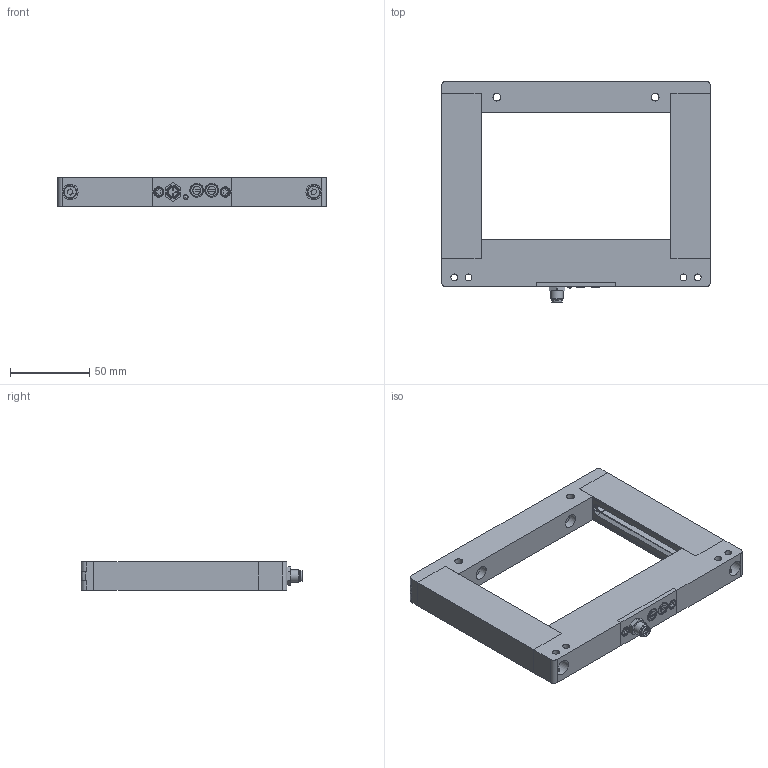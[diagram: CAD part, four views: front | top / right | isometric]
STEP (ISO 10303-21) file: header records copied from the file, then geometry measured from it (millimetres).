
FILE_DESCRIPTION(/* description */ (''),/* implementation_level */ '2;1');
FILE_NAME(/* name */ 'C:\#Vault-WorkDir\Konstruktions-Dokumente\Projekte\Rahmenlichtschranke\153-00295 FG 120 I-PSM3.stp',/* time_stamp */ '2014-12-18T09:55:19+01:00',/* author */ ('sandra.stahl'),/* organization */ (''),/* preprocessor_version */ 'ST-DEVELOPER v15.2',/* originating_system */ 'Autodesk Inventor 2014',/* authorisation */ '');
FILE_SCHEMA (('AUTOMOTIVE_DESIGN { 1 0 10303 214 3 1 1 }'));
Length unit declared in the file: millimetre
Products named in the file (1): GH-ENG-0008792
Bounding box: 170 x 140 x 18 mm (x, y, z)
Volume: 177833.5 mm3; surface area: 74562.5 mm2
Topology: 18 solids, 18 shells, 471 faces, 1154 edges, 754 vertices
Faces by surface type: plane 271, cylinder 151, cone 34, torus 9, sphere 4, bspline 2
Full cylindrical faces by diameter (mm): 0.6 x3, 1 x6, 2.5 x4, 2.8 x2, 3 x9, 3.2 x4, 3.3 x2, 3.8 x1, 4 x2, 4.2 x4, 4.3 x6, 5 x8, 5.4 x4, 5.5 x2, 5.8 x1, 6.2 x1, 6.4 x1, 6.8 x2, 7.2 x3, 8 x3, 8.1 x1, 8.4 x2, 8.5 x2, 8.7 x2, 9 x2, 10 x2
Entity records: 14159 total; most frequent: CARTESIAN_POINT 3267, DIRECTION 2240, ORIENTED_EDGE 1954, EDGE_CURVE 977, AXIS2_PLACEMENT_3D 819, VERTEX_POINT 697, EDGE_LOOP 684, LINE 602
